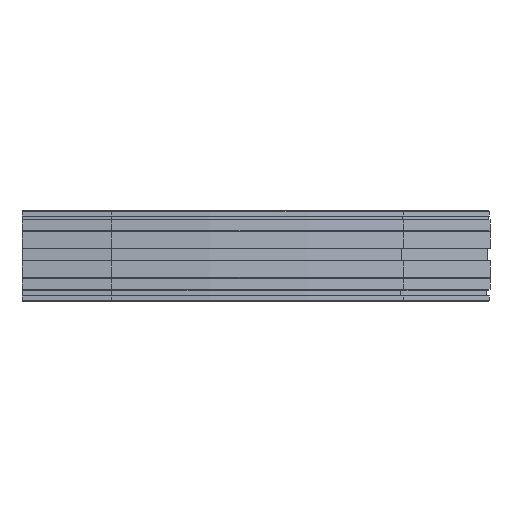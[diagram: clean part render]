
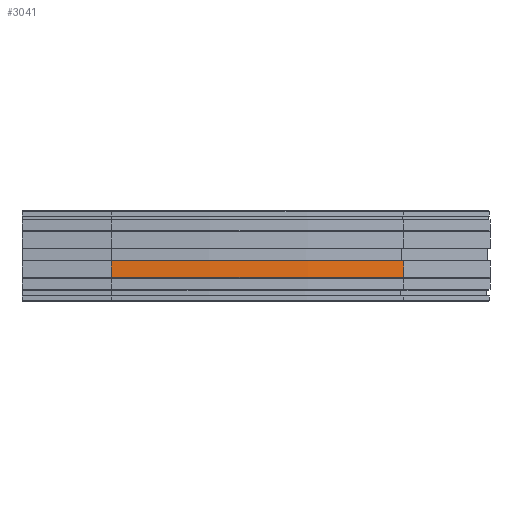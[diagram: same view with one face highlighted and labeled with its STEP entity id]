
A CAD part, front view. The second image highlights one B-rep face of the part: STEP entity #3041.
In plain terms, the highlighted cylindrical face has radius 1012 mm (diameter 2024 mm), a partial arc.
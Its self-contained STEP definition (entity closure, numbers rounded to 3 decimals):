
#29=CYLINDRICAL_SURFACE('',#3222,1012.);
#59=CIRCLE('',#3221,1012.);
#60=CIRCLE('',#3223,1012.);
#229=FACE_OUTER_BOUND('',#399,.T.);
#399=EDGE_LOOP('',(#2278,#2279,#2280,#2281));
#574=LINE('',#4616,#932);
#687=LINE('',#4873,#1045);
#932=VECTOR('',#3503,10.);
#1045=VECTOR('',#3704,10.);
#1286=VERTEX_POINT('',#4609);
#1288=VERTEX_POINT('',#4615);
#1387=VERTEX_POINT('',#4868);
#1388=VERTEX_POINT('',#4872);
#1604=EDGE_CURVE('',#1288,#1286,#574,.T.);
#1724=EDGE_CURVE('',#1387,#1286,#59,.T.);
#1725=EDGE_CURVE('',#1388,#1387,#687,.T.);
#1726=EDGE_CURVE('',#1388,#1288,#60,.T.);
#2278=ORIENTED_EDGE('',*,*,#1725,.T.);
#2279=ORIENTED_EDGE('',*,*,#1724,.T.);
#2280=ORIENTED_EDGE('',*,*,#1604,.F.);
#2281=ORIENTED_EDGE('',*,*,#1726,.F.);
#3041=ADVANCED_FACE('',(#229),#29,.T.);
#3221=AXIS2_PLACEMENT_3D('',#4870,#3700,#3701);
#3222=AXIS2_PLACEMENT_3D('',#4871,#3702,#3703);
#3223=AXIS2_PLACEMENT_3D('',#4874,#3705,#3706);
#3503=DIRECTION('',(0.,0.,-1.));
#3700=DIRECTION('center_axis',(0.,0.,1.));
#3701=DIRECTION('ref_axis',(0.,-1.,0.));
#3702=DIRECTION('center_axis',(0.,0.,1.));
#3703=DIRECTION('ref_axis',(0.,-1.,0.));
#3704=DIRECTION('',(0.,0.,-1.));
#3705=DIRECTION('center_axis',(0.,0.,1.));
#3706=DIRECTION('ref_axis',(0.,-1.,0.));
#4609=CARTESIAN_POINT('',(261.925,-77.517,-60.));
#4615=CARTESIAN_POINT('',(261.925,-77.517,-45.));
#4616=CARTESIAN_POINT('',(261.925,-77.517,-60.));
#4868=CARTESIAN_POINT('',(0.,-112.,-60.));
#4870=CARTESIAN_POINT('Origin',(0.,900.,-60.));
#4871=CARTESIAN_POINT('Origin',(0.,900.,-52.5));
#4872=CARTESIAN_POINT('',(0.,-112.,-45.));
#4873=CARTESIAN_POINT('',(0.,-112.,-60.));
#4874=CARTESIAN_POINT('Origin',(0.,900.,-45.));
